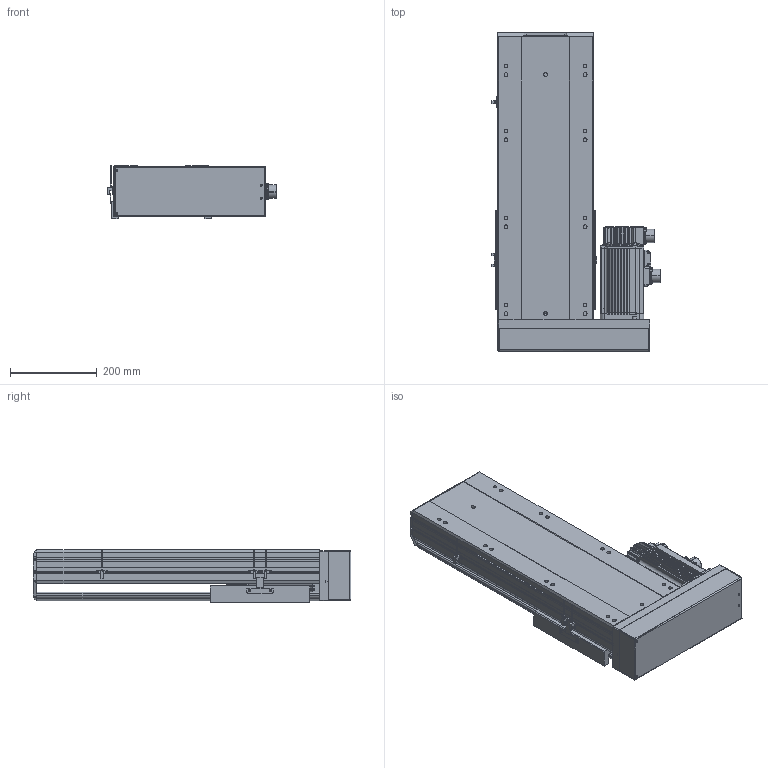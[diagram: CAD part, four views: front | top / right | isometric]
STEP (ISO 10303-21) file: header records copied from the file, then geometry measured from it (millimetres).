
FILE_DESCRIPTION (( 'STEP AP203' ), '1' );
FILE_NAME ('BTH22-L05-350-BR-PCD115-M6-95.STEP', '2022-05-07T01:49:11', ( 'CXY' ), ( 'BT' ), 'SwSTEP 2.0', 'SolidWorks 2016', '' );
FILE_SCHEMA (( 'CONFIG_CONTROL_DESIGN' ));
Products named in the file (7): BTH22-BR-06-H100; BTH22-L05-350-BR-PCD115-M6-95; BTH22-BR-04; BTH22-BR-菁釱; BTH22-BR-01; PCD115; BTH22-BR-HZ
Assembly tree (8 placements, depth 2):
  BTH22-L05-350-BR-PCD115-M6-95
    BTH22-BR-菁釱
    BTH22-BR-01
    BTH22-BR-04  x3
    BTH22-BR-HZ
    BTH22-BR-06-H100
    PCD115
Bounding box: 387.7 x 732 x 122.7 mm (x, y, z)
Volume: 11217756 mm3; surface area: 1695925.6 mm2
Topology: 51 solids, 53 shells, 3034 faces, 7737 edges, 4812 vertices
Faces by surface type: cylinder 1320, plane 1222, bspline 387, cone 105
Entity records: 96469 total; most frequent: CARTESIAN_POINT 27107, ORIENTED_EDGE 14494, DIRECTION 14238, EDGE_CURVE 7247, AXIS2_PLACEMENT_3D 5200, VERTEX_POINT 4580, LINE 3838, VECTOR 3838
